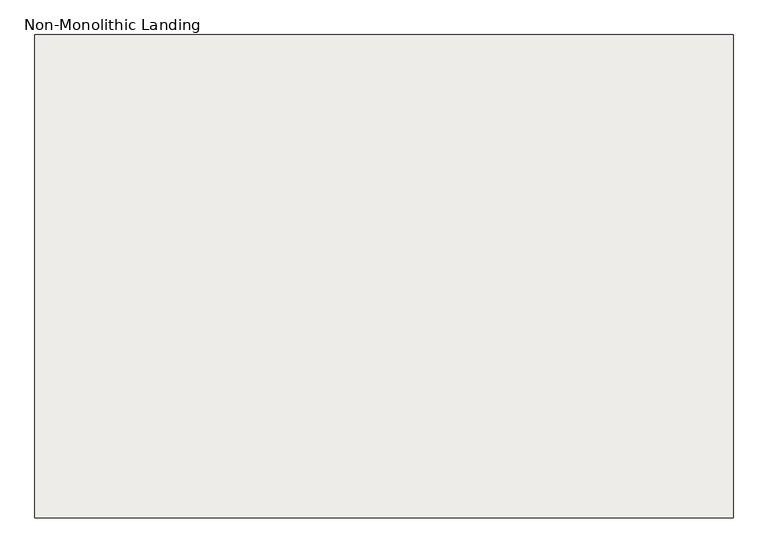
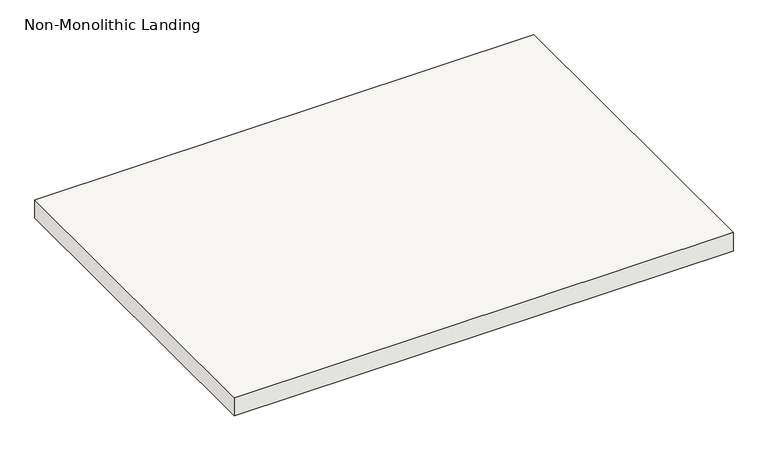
"""IFC4 building model written with IfcOpenShell, lengths in millimetres: slab geometry, Non-Monolithic Landing."""

from ifc_helpers import new_model, si_unit, frame, origin, place, context, project, spatial, polyline, outline, extrude, source, transform, mapped, element, save


def non_monolithic_landing_eebf8293(model_context):
    return source(origin(), model_context, "Body", "SweptSolid", [
        extrude(outline(polyline([(87752.2048368, -1486.3855758), (89073.0048368, -1486.3855758), (89073.0048368, -2400.7855758), (87752.2048368, -2400.7855758), (87752.2048368, -1486.3855758)])), frame((0.0, 0.0, 2126.3428571), z_axis=(0.0, 0.0, 1.0), x_axis=(1.0, 0.0, 0.0)), (0.0, 0.0, 1.0), 50.8),
    ])


if __name__ == "__main__":
    model = new_model("IFC4")
    model_context = context("Model", 3, world=origin())
    ifc_project = project(units=[si_unit("LENGTHUNIT", "METRE", prefix="MILLI")], contexts=[model_context])
    site = spatial("IfcSite", under=ifc_project)
    building = spatial("IfcBuilding", under=site)
    placement = place(None, origin())
    non_monolithic_landing_shape = non_monolithic_landing_eebf8293(model_context)
    element("IfcSlab", 1, ObjectType="Non-Monolithic Landing", at=placement, inside=building, context=model_context, shape_type="MappedRepresentation", body=[
        mapped(non_monolithic_landing_shape, transform((0.0, 0.0, 0.0), x_axis=(1.0, 0.0, 0.0), y_axis=(0.0, 1.0, 0.0), z_axis=(0.0, 0.0, 1.0))),
    ])
    save(model, "model.ifc")
